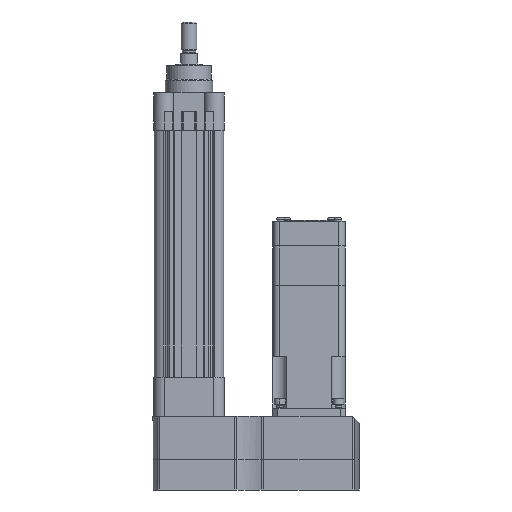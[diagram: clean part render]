
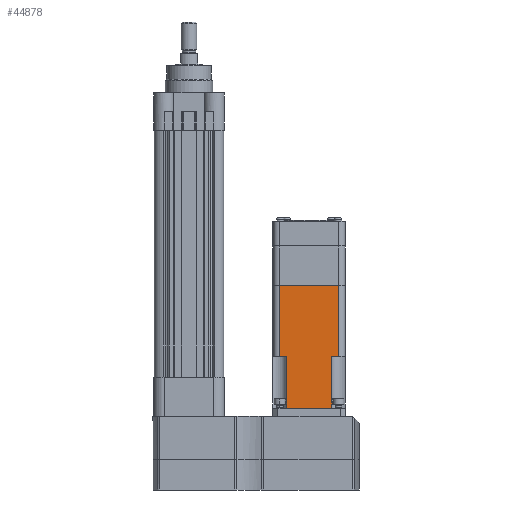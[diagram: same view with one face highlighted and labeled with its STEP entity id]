
A CAD part, front view. The second image highlights one B-rep face of the part: STEP entity #44878.
In plain terms, the highlighted planar face has unit normal (0, -1, 0).
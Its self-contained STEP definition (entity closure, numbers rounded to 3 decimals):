
#250 = DIRECTION ( 'NONE',  ( -1., 0., 0. ) ) ;
#371 = CARTESIAN_POINT ( 'NONE',  ( -45.898, -27.559, 17.084 ) ) ;
#779 = CARTESIAN_POINT ( 'NONE',  ( -45.898, -27.559, 27.559 ) ) ;
#1333 = CARTESIAN_POINT ( 'NONE',  ( -6.401, -27.559, 17.084 ) ) ;
#1354 = LINE ( 'NONE', #28701, #38268 ) ;
#1427 = LINE ( 'NONE', #16483, #18264 ) ;
#1450 = AXIS2_PLACEMENT_3D ( 'NONE', #16655, #27412, #5938 ) ;
#2709 = EDGE_LOOP ( 'NONE', ( #18172, #5437, #42283, #38014, #37028, #33549, #43301, #41905 ) ) ;
#2936 = CARTESIAN_POINT ( 'NONE',  ( -100.076, -27.559, 27.559 ) ) ;
#3823 = VERTEX_POINT ( 'NONE', #1333 ) ;
#5431 = CARTESIAN_POINT ( 'NONE',  ( -100.076, -27.559, 22.479 ) ) ;
#5437 = ORIENTED_EDGE ( 'NONE', *, *, #21260, .T. ) ;
#5938 = DIRECTION ( 'NONE',  ( 0., 0., 1. ) ) ;
#8172 = EDGE_CURVE ( 'NONE', #18448, #26677, #36781, .T. ) ;
#8192 = VECTOR ( 'NONE', #45778, 1000. ) ;
#8223 = VECTOR ( 'NONE', #21557, 1000. ) ;
#8392 = EDGE_CURVE ( 'NONE', #30043, #26415, #37303, .T. ) ;
#8755 = VECTOR ( 'NONE', #40446, 1000. ) ;
#9210 = VERTEX_POINT ( 'NONE', #34693 ) ;
#12268 = CARTESIAN_POINT ( 'NONE',  ( -6.401, -27.559, 27.559 ) ) ;
#13023 = PLANE ( 'NONE',  #1450 ) ;
#14673 = VECTOR ( 'NONE', #33670, 1000. ) ;
#15216 = VECTOR ( 'NONE', #25387, 1000. ) ;
#15450 = CARTESIAN_POINT ( 'NONE',  ( -45.898, -27.559, 27.559 ) ) ;
#16483 = CARTESIAN_POINT ( 'NONE',  ( -100.076, -27.559, -22.479 ) ) ;
#16655 = CARTESIAN_POINT ( 'NONE',  ( -100.076, -27.559, 27.559 ) ) ;
#16669 = LINE ( 'NONE', #779, #26180 ) ;
#17899 = CARTESIAN_POINT ( 'NONE',  ( -45.898, -27.559, -17.084 ) ) ;
#17991 = CARTESIAN_POINT ( 'NONE',  ( -100.076, -27.559, 22.479 ) ) ;
#18172 = ORIENTED_EDGE ( 'NONE', *, *, #33258, .F. ) ;
#18264 = VECTOR ( 'NONE', #34251, 1000. ) ;
#18448 = VERTEX_POINT ( 'NONE', #45323 ) ;
#20382 = EDGE_CURVE ( 'NONE', #28769, #18448, #16669, .T. ) ;
#21260 = EDGE_CURVE ( 'NONE', #9210, #30043, #1427, .T. ) ;
#21557 = DIRECTION ( 'NONE',  ( -1., 0., 0. ) ) ;
#22243 = DIRECTION ( 'NONE',  ( 0., 0., 1. ) ) ;
#22576 = CARTESIAN_POINT ( 'NONE',  ( -6.401, -27.559, -17.084 ) ) ;
#23581 = LINE ( 'NONE', #371, #15216 ) ;
#24165 = LINE ( 'NONE', #12268, #14673 ) ;
#25387 = DIRECTION ( 'NONE',  ( 1., 0., 0. ) ) ;
#26180 = VECTOR ( 'NONE', #22243, 1000. ) ;
#26415 = VERTEX_POINT ( 'NONE', #17899 ) ;
#26677 = VERTEX_POINT ( 'NONE', #5431 ) ;
#27245 = LINE ( 'NONE', #2936, #8192 ) ;
#27412 = DIRECTION ( 'NONE',  ( 0., 1., 0. ) ) ;
#28701 = CARTESIAN_POINT ( 'NONE',  ( -45.898, -27.559, -17.084 ) ) ;
#28769 = VERTEX_POINT ( 'NONE', #29373 ) ;
#29373 = CARTESIAN_POINT ( 'NONE',  ( -45.898, -27.559, 17.084 ) ) ;
#30043 = VERTEX_POINT ( 'NONE', #34470 ) ;
#30443 = EDGE_CURVE ( 'NONE', #35014, #3823, #24165, .T. ) ;
#30759 = EDGE_CURVE ( 'NONE', #28769, #3823, #23581, .T. ) ;
#31826 = FACE_OUTER_BOUND ( 'NONE', #2709, .T. ) ;
#33258 = EDGE_CURVE ( 'NONE', #9210, #26677, #27245, .T. ) ;
#33549 = ORIENTED_EDGE ( 'NONE', *, *, #30759, .F. ) ;
#33670 = DIRECTION ( 'NONE',  ( 0., 0., 1. ) ) ;
#34251 = DIRECTION ( 'NONE',  ( 1., 0., 0. ) ) ;
#34470 = CARTESIAN_POINT ( 'NONE',  ( -45.898, -27.559, -22.479 ) ) ;
#34693 = CARTESIAN_POINT ( 'NONE',  ( -100.076, -27.559, -22.479 ) ) ;
#35014 = VERTEX_POINT ( 'NONE', #22576 ) ;
#36781 = LINE ( 'NONE', #17991, #8223 ) ;
#37028 = ORIENTED_EDGE ( 'NONE', *, *, #30443, .T. ) ;
#37303 = LINE ( 'NONE', #15450, #8755 ) ;
#38014 = ORIENTED_EDGE ( 'NONE', *, *, #40295, .F. ) ;
#38268 = VECTOR ( 'NONE', #250, 1000. ) ;
#40295 = EDGE_CURVE ( 'NONE', #35014, #26415, #1354, .T. ) ;
#40446 = DIRECTION ( 'NONE',  ( 0., 0., 1. ) ) ;
#41905 = ORIENTED_EDGE ( 'NONE', *, *, #8172, .T. ) ;
#42283 = ORIENTED_EDGE ( 'NONE', *, *, #8392, .T. ) ;
#43301 = ORIENTED_EDGE ( 'NONE', *, *, #20382, .T. ) ;
#44878 = ADVANCED_FACE ( 'NONE', ( #31826 ), #13023, .F. ) ;
#45323 = CARTESIAN_POINT ( 'NONE',  ( -45.898, -27.559, 22.479 ) ) ;
#45778 = DIRECTION ( 'NONE',  ( 0., 0., 1. ) ) ;
